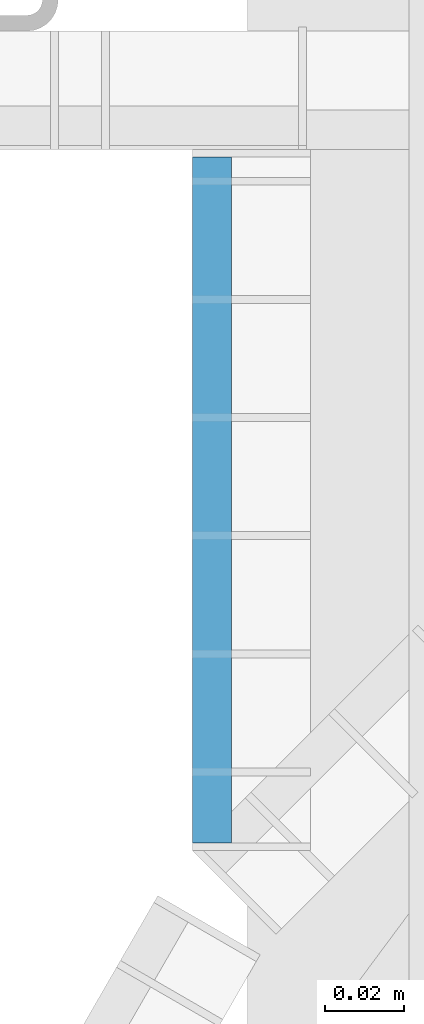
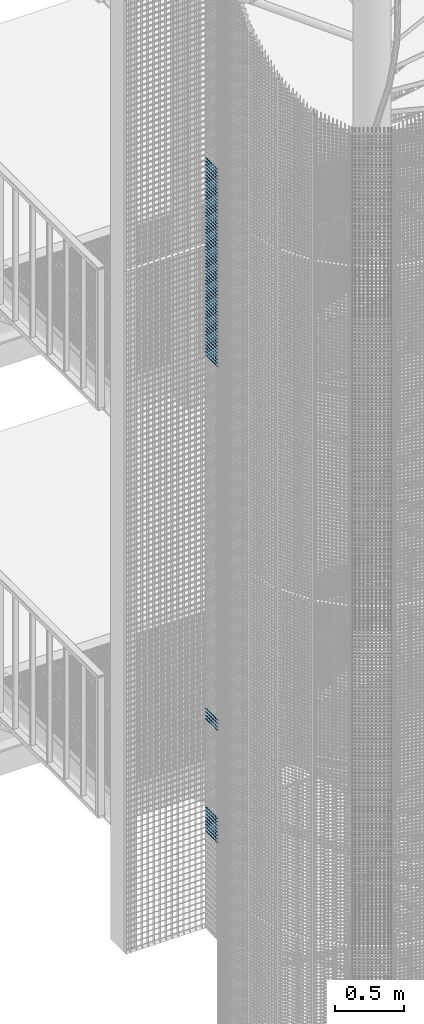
# One storey, part 182 of 1183: 71 beams, 2 elements without a shape of their own.
"""IFC2X3 building model written with IfcOpenShell, lengths in millimetres."""

from ifc_helpers import new_model, si_unit, frame, origin_with_axes, origin_2d_with_axis, place, context, subcontext, project, spatial, rectangle, extrude, material, type_object, element, aggregate, save


model = new_model("IFC2X3")

# Units and contexts
model_context = context("Model", 3, precision=1e-05, world=origin_with_axes())
body_context = subcontext(model_context, "Body", "Model", "MODEL_VIEW")
ifc_project = project(units=[si_unit("LENGTHUNIT", "METRE", prefix="MILLI"), si_unit("AREAUNIT", "SQUARE_METRE"), si_unit("VOLUMEUNIT", "CUBIC_METRE"), si_unit("MASSUNIT", "GRAM", prefix="KILO"), si_unit("TIMEUNIT", "SECOND"), si_unit("PLANEANGLEUNIT", "RADIAN"), si_unit("SOLIDANGLEUNIT", "STERADIAN"), si_unit("THERMODYNAMICTEMPERATUREUNIT", "DEGREE_CELSIUS"), si_unit("LUMINOUSINTENSITYUNIT", "LUMEN")], contexts=[model_context])

# Site, building, storey
site_placement = place(None, origin_with_axes())
site = spatial("IfcSite", under=ifc_project, at=site_placement, Name="Undefined", CompositionType="ELEMENT")
building_placement = place(site_placement, origin_with_axes())
building = spatial("IfcBuilding", under=site, at=building_placement, Name="Undefined", CompositionType="ELEMENT")
storey_placement = place(building_placement, origin_with_axes())
storey = spatial("IfcBuildingStorey", under=building, at=storey_placement, Name="Undefined", CompositionType="ELEMENT", Elevation=0.0)

# Assembly, beams
assembly_1_placement = place(storey_placement, origin_with_axes())
assembly_1 = element("IfcElementAssembly", 1, at=assembly_1_placement, inside=storey, Name="BORDURE", AssemblyPlace="NOTDEFINED", PredefinedType="NOTDEFINED")
ifc_material = material(Name="STEEL/S235JR")
beam_type = type_object("IfcBeamType", Name="PL2*10", PredefinedType="NOTDEFINED")
beam_1_placement = place(assembly_1_placement, frame((-884.882567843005, 867.997017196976, 6240.0), z_axis=(-1.0, 0.0, 0.0), x_axis=(0.0, -1.0, 0.0)))
beam_1 = element("IfcBeam", 2, at=beam_1_placement, type_object=beam_type, material=ifc_material, Name="ENTRETOISE", context=body_context, shape_type="SweptSolid", body=[
    extrude(rectangle(XDim=2.0, YDim=10.0, at=origin_2d_with_axis()), frame((174.109999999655, 0.0, 0.0), z_axis=(-1.0, 0.0, 0.0), x_axis=(0.0, -1.0, 0.0)), (0.0, 0.0, 1.0), 174.11),
])
beam_2_placement = place(assembly_1_placement, frame((-884.882567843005, 867.997017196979, 7020.0), z_axis=(-1.0, 0.0, 0.0), x_axis=(0.0, -1.0, 0.0)))
beam_2 = element("IfcBeam", 3, at=beam_2_placement, type_object=beam_type, material=ifc_material, Name="ENTRETOISE", context=body_context, shape_type="SweptSolid", body=[
    extrude(rectangle(XDim=2.0, YDim=10.0, at=origin_2d_with_axis()), frame((174.109999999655, 0.0, 0.0), z_axis=(-1.0, 0.0, 0.0), x_axis=(0.0, -1.0, 0.0)), (0.0, 0.0, 1.0), 174.11),
])
beam_3_placement = place(assembly_1_placement, frame((-884.882567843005, 867.997017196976, 6210.0), z_axis=(-1.0, 0.0, 0.0), x_axis=(0.0, -1.0, 0.0)))
beam_3 = element("IfcBeam", 4, at=beam_3_placement, type_object=beam_type, material=ifc_material, Name="ENTRETOISE", context=body_context, shape_type="SweptSolid", body=[
    extrude(rectangle(XDim=2.0, YDim=10.0, at=origin_2d_with_axis()), frame((174.109999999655, 0.0, 0.0), z_axis=(-1.0, 0.0, 0.0), x_axis=(0.0, -1.0, 0.0)), (0.0, 0.0, 1.0), 174.11),
])
beam_4_placement = place(assembly_1_placement, frame((-884.882567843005, 867.997017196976, 6180.0), z_axis=(-1.0, 0.0, 0.0), x_axis=(0.0, -1.0, 0.0)))
beam_4 = element("IfcBeam", 5, at=beam_4_placement, type_object=beam_type, material=ifc_material, Name="ENTRETOISE", context=body_context, shape_type="SweptSolid", body=[
    extrude(rectangle(XDim=2.0, YDim=10.0, at=origin_2d_with_axis()), frame((174.109999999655, 0.0, 0.0), z_axis=(-1.0, 0.0, 0.0), x_axis=(0.0, -1.0, 0.0)), (0.0, 0.0, 1.0), 174.11),
])
beam_5_placement = place(assembly_1_placement, frame((-884.882567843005, 867.997017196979, 7050.0), z_axis=(-1.0, 0.0, 0.0), x_axis=(0.0, -1.0, 0.0)))
beam_5 = element("IfcBeam", 6, at=beam_5_placement, type_object=beam_type, material=ifc_material, Name="ENTRETOISE", context=body_context, shape_type="SweptSolid", body=[
    extrude(rectangle(XDim=2.0, YDim=10.0, at=origin_2d_with_axis()), frame((174.109999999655, 0.0, 0.0), z_axis=(-1.0, 0.0, 0.0), x_axis=(0.0, -1.0, 0.0)), (0.0, 0.0, 1.0), 174.11),
])
beam_6_placement = place(assembly_1_placement, frame((-884.882567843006, 867.997017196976, 6150.0), z_axis=(-1.0, 0.0, 0.0), x_axis=(0.0, -1.0, 0.0)))
beam_6 = element("IfcBeam", 7, at=beam_6_placement, type_object=beam_type, material=ifc_material, Name="ENTRETOISE", context=body_context, shape_type="SweptSolid", body=[
    extrude(rectangle(XDim=2.0, YDim=10.0, at=origin_2d_with_axis()), frame((174.109999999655, 0.0, 0.0), z_axis=(-1.0, 0.0, 0.0), x_axis=(0.0, -1.0, 0.0)), (0.0, 0.0, 1.0), 174.11),
])
beam_7_placement = place(assembly_1_placement, frame((-884.882567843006, 867.997017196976, 6120.0), z_axis=(-1.0, 0.0, 0.0), x_axis=(0.0, -1.0, 0.0)))
beam_7 = element("IfcBeam", 8, at=beam_7_placement, type_object=beam_type, material=ifc_material, Name="ENTRETOISE", context=body_context, shape_type="SweptSolid", body=[
    extrude(rectangle(XDim=2.0, YDim=10.0, at=origin_2d_with_axis()), frame((174.109999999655, 0.0, 0.0), z_axis=(-1.0, 0.0, 0.0), x_axis=(0.0, -1.0, 0.0)), (0.0, 0.0, 1.0), 174.11),
])
beam_8_placement = place(assembly_1_placement, frame((-884.882567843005, 867.997017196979, 7080.0), z_axis=(-1.0, 0.0, 0.0), x_axis=(0.0, -1.0, 0.0)))
beam_8 = element("IfcBeam", 9, at=beam_8_placement, type_object=beam_type, material=ifc_material, Name="ENTRETOISE", context=body_context, shape_type="SweptSolid", body=[
    extrude(rectangle(XDim=2.0, YDim=10.0, at=origin_2d_with_axis()), frame((174.109999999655, 0.0, 0.0), z_axis=(-1.0, 0.0, 0.0), x_axis=(0.0, -1.0, 0.0)), (0.0, 0.0, 1.0), 174.11),
])
beam_9_placement = place(assembly_1_placement, frame((-884.882567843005, 867.997017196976, 6090.0), z_axis=(-1.0, 0.0, 0.0), x_axis=(0.0, -1.0, 0.0)))
beam_9 = element("IfcBeam", 10, at=beam_9_placement, type_object=beam_type, material=ifc_material, Name="ENTRETOISE", context=body_context, shape_type="SweptSolid", body=[
    extrude(rectangle(XDim=2.0, YDim=10.0, at=origin_2d_with_axis()), frame((174.109999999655, 0.0, 0.0), z_axis=(-1.0, 0.0, 0.0), x_axis=(0.0, -1.0, 0.0)), (0.0, 0.0, 1.0), 174.11),
])
beam_10_placement = place(assembly_1_placement, frame((-884.882567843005, 867.997017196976, 6060.0), z_axis=(-1.0, 0.0, 0.0), x_axis=(0.0, -1.0, 0.0)))
beam_10 = element("IfcBeam", 11, at=beam_10_placement, type_object=beam_type, material=ifc_material, Name="ENTRETOISE", context=body_context, shape_type="SweptSolid", body=[
    extrude(rectangle(XDim=2.0, YDim=10.0, at=origin_2d_with_axis()), frame((174.109999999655, 0.0, 0.0), z_axis=(-1.0, 0.0, 0.0), x_axis=(0.0, -1.0, 0.0)), (0.0, 0.0, 1.0), 174.11),
])
beam_11_placement = place(assembly_1_placement, frame((-884.882567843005, 867.99701719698, 7110.0), z_axis=(-1.0, 0.0, 0.0), x_axis=(0.0, -1.0, 0.0)))
beam_11 = element("IfcBeam", 12, at=beam_11_placement, type_object=beam_type, material=ifc_material, Name="ENTRETOISE", context=body_context, shape_type="SweptSolid", body=[
    extrude(rectangle(XDim=2.0, YDim=10.0, at=origin_2d_with_axis()), frame((174.109999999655, 0.0, 0.0), z_axis=(-1.0, 0.0, 0.0), x_axis=(0.0, -1.0, 0.0)), (0.0, 0.0, 1.0), 174.11),
])
beam_12_placement = place(assembly_1_placement, frame((-884.882567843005, 867.997017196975, 6030.0), z_axis=(-1.0, 0.0, 0.0), x_axis=(0.0, -1.0, 0.0)))
beam_12 = element("IfcBeam", 13, at=beam_12_placement, type_object=beam_type, material=ifc_material, Name="ENTRETOISE", context=body_context, shape_type="SweptSolid", body=[
    extrude(rectangle(XDim=2.0, YDim=10.0, at=origin_2d_with_axis()), frame((174.109999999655, 0.0, 0.0), z_axis=(-1.0, 0.0, 0.0), x_axis=(0.0, -1.0, 0.0)), (0.0, 0.0, 1.0), 174.11),
])
aggregate(assembly_1, [beam_1, beam_2, beam_3, beam_4, beam_5, beam_6, beam_7, beam_8, beam_9, beam_10, beam_11, beam_12])

assembly_2_placement = place(storey_placement, origin_with_axes())
assembly_2 = element("IfcElementAssembly", 14, at=assembly_2_placement, inside=storey, Name="BORDURE", AssemblyPlace="NOTDEFINED", PredefinedType="NOTDEFINED")
beam_13_placement = place(assembly_2_placement, frame((-884.882567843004, 867.997017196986, 11970.0), z_axis=(-1.0, 0.0, 0.0), x_axis=(0.0, -1.0, 0.0)))
beam_13 = element("IfcBeam", 15, at=beam_13_placement, type_object=beam_type, material=ifc_material, Name="ENTRETOISE", context=body_context, shape_type="SweptSolid", body=[
    extrude(rectangle(XDim=2.0, YDim=10.0, at=origin_2d_with_axis()), frame((174.109999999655, 0.0, 0.0), z_axis=(-1.0, 0.0, 0.0), x_axis=(0.0, -1.0, 0.0)), (0.0, 0.0, 1.0), 174.11),
])
beam_14_placement = place(assembly_2_placement, frame((-884.882567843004, 867.997017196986, 11940.0), z_axis=(-1.0, 0.0, 0.0), x_axis=(0.0, -1.0, 0.0)))
beam_14 = element("IfcBeam", 16, at=beam_14_placement, type_object=beam_type, material=ifc_material, Name="ENTRETOISE", context=body_context, shape_type="SweptSolid", body=[
    extrude(rectangle(XDim=2.0, YDim=10.0, at=origin_2d_with_axis()), frame((174.109999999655, 0.0, 0.0), z_axis=(-1.0, 0.0, 0.0), x_axis=(0.0, -1.0, 0.0)), (0.0, 0.0, 1.0), 174.11),
])
beam_15_placement = place(assembly_2_placement, frame((-884.882567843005, 867.997017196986, 11910.0), z_axis=(-1.0, 0.0, 0.0), x_axis=(0.0, -1.0, 0.0)))
beam_15 = element("IfcBeam", 17, at=beam_15_placement, type_object=beam_type, material=ifc_material, Name="ENTRETOISE", context=body_context, shape_type="SweptSolid", body=[
    extrude(rectangle(XDim=2.0, YDim=10.0, at=origin_2d_with_axis()), frame((174.109999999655, 0.0, 0.0), z_axis=(-1.0, 0.0, 0.0), x_axis=(0.0, -1.0, 0.0)), (0.0, 0.0, 1.0), 174.11),
])
beam_16_placement = place(assembly_2_placement, frame((-884.882567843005, 867.997017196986, 11880.0), z_axis=(-1.0, 0.0, 0.0), x_axis=(0.0, -1.0, 0.0)))
beam_16 = element("IfcBeam", 18, at=beam_16_placement, type_object=beam_type, material=ifc_material, Name="ENTRETOISE", context=body_context, shape_type="SweptSolid", body=[
    extrude(rectangle(XDim=2.0, YDim=10.0, at=origin_2d_with_axis()), frame((174.109999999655, 0.0, 0.0), z_axis=(-1.0, 0.0, 0.0), x_axis=(0.0, -1.0, 0.0)), (0.0, 0.0, 1.0), 174.11),
])
beam_17_placement = place(assembly_2_placement, frame((-884.882567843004, 867.997017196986, 11850.0), z_axis=(-1.0, 0.0, 0.0), x_axis=(0.0, -1.0, 0.0)))
beam_17 = element("IfcBeam", 19, at=beam_17_placement, type_object=beam_type, material=ifc_material, Name="ENTRETOISE", context=body_context, shape_type="SweptSolid", body=[
    extrude(rectangle(XDim=2.0, YDim=10.0, at=origin_2d_with_axis()), frame((174.109999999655, 0.0, 0.0), z_axis=(-1.0, 0.0, 0.0), x_axis=(0.0, -1.0, 0.0)), (0.0, 0.0, 1.0), 174.11),
])
beam_18_placement = place(assembly_2_placement, frame((-884.882567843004, 867.997017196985, 11820.0), z_axis=(-1.0, 0.0, 0.0), x_axis=(0.0, -1.0, 0.0)))
beam_18 = element("IfcBeam", 20, at=beam_18_placement, type_object=beam_type, material=ifc_material, Name="ENTRETOISE", context=body_context, shape_type="SweptSolid", body=[
    extrude(rectangle(XDim=2.0, YDim=10.0, at=origin_2d_with_axis()), frame((174.109999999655, 0.0, 0.0), z_axis=(-1.0, 0.0, 0.0), x_axis=(0.0, -1.0, 0.0)), (0.0, 0.0, 1.0), 174.11),
])
beam_19_placement = place(assembly_2_placement, frame((-884.882567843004, 867.997017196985, 11790.0), z_axis=(-1.0, 0.0, 0.0), x_axis=(0.0, -1.0, 0.0)))
beam_19 = element("IfcBeam", 21, at=beam_19_placement, type_object=beam_type, material=ifc_material, Name="ENTRETOISE", context=body_context, shape_type="SweptSolid", body=[
    extrude(rectangle(XDim=2.0, YDim=10.0, at=origin_2d_with_axis()), frame((174.109999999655, 0.0, 0.0), z_axis=(-1.0, 0.0, 0.0), x_axis=(0.0, -1.0, 0.0)), (0.0, 0.0, 1.0), 174.11),
])
beam_20_placement = place(assembly_2_placement, frame((-884.882567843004, 867.997017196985, 11760.0), z_axis=(-1.0, 0.0, 0.0), x_axis=(0.0, -1.0, 0.0)))
beam_20 = element("IfcBeam", 22, at=beam_20_placement, type_object=beam_type, material=ifc_material, Name="ENTRETOISE", context=body_context, shape_type="SweptSolid", body=[
    extrude(rectangle(XDim=2.0, YDim=10.0, at=origin_2d_with_axis()), frame((174.109999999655, 0.0, 0.0), z_axis=(-1.0, 0.0, 0.0), x_axis=(0.0, -1.0, 0.0)), (0.0, 0.0, 1.0), 174.11),
])
beam_21_placement = place(assembly_2_placement, frame((-884.882567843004, 867.997017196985, 11730.0), z_axis=(-1.0, 0.0, 0.0), x_axis=(0.0, -1.0, 0.0)))
beam_21 = element("IfcBeam", 23, at=beam_21_placement, type_object=beam_type, material=ifc_material, Name="ENTRETOISE", context=body_context, shape_type="SweptSolid", body=[
    extrude(rectangle(XDim=2.0, YDim=10.0, at=origin_2d_with_axis()), frame((174.109999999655, 0.0, 0.0), z_axis=(-1.0, 0.0, 0.0), x_axis=(0.0, -1.0, 0.0)), (0.0, 0.0, 1.0), 174.11),
])
beam_22_placement = place(assembly_2_placement, frame((-884.882567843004, 867.997017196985, 11700.0), z_axis=(-1.0, 0.0, 0.0), x_axis=(0.0, -1.0, 0.0)))
beam_22 = element("IfcBeam", 24, at=beam_22_placement, type_object=beam_type, material=ifc_material, Name="ENTRETOISE", context=body_context, shape_type="SweptSolid", body=[
    extrude(rectangle(XDim=2.0, YDim=10.0, at=origin_2d_with_axis()), frame((174.109999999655, 0.0, 0.0), z_axis=(-1.0, 0.0, 0.0), x_axis=(0.0, -1.0, 0.0)), (0.0, 0.0, 1.0), 174.11),
])
beam_23_placement = place(assembly_2_placement, frame((-884.882567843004, 867.997017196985, 11670.0), z_axis=(-1.0, 0.0, 0.0), x_axis=(0.0, -1.0, 0.0)))
beam_23 = element("IfcBeam", 25, at=beam_23_placement, type_object=beam_type, material=ifc_material, Name="ENTRETOISE", context=body_context, shape_type="SweptSolid", body=[
    extrude(rectangle(XDim=2.0, YDim=10.0, at=origin_2d_with_axis()), frame((174.109999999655, 0.0, 0.0), z_axis=(-1.0, 0.0, 0.0), x_axis=(0.0, -1.0, 0.0)), (0.0, 0.0, 1.0), 174.11),
])
beam_24_placement = place(assembly_2_placement, frame((-884.882567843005, 867.997017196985, 11640.0), z_axis=(-1.0, 0.0, 0.0), x_axis=(0.0, -1.0, 0.0)))
beam_24 = element("IfcBeam", 26, at=beam_24_placement, type_object=beam_type, material=ifc_material, Name="ENTRETOISE", context=body_context, shape_type="SweptSolid", body=[
    extrude(rectangle(XDim=2.0, YDim=10.0, at=origin_2d_with_axis()), frame((174.109999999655, 0.0, 0.0), z_axis=(-1.0, 0.0, 0.0), x_axis=(0.0, -1.0, 0.0)), (0.0, 0.0, 1.0), 174.11),
])
beam_25_placement = place(assembly_2_placement, frame((-884.882567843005, 867.997017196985, 11610.0), z_axis=(-1.0, 0.0, 0.0), x_axis=(0.0, -1.0, 0.0)))
beam_25 = element("IfcBeam", 27, at=beam_25_placement, type_object=beam_type, material=ifc_material, Name="ENTRETOISE", context=body_context, shape_type="SweptSolid", body=[
    extrude(rectangle(XDim=2.0, YDim=10.0, at=origin_2d_with_axis()), frame((174.109999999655, 0.0, 0.0), z_axis=(-1.0, 0.0, 0.0), x_axis=(0.0, -1.0, 0.0)), (0.0, 0.0, 1.0), 174.11),
])
beam_26_placement = place(assembly_2_placement, frame((-884.882567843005, 867.997017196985, 11580.0), z_axis=(-1.0, 0.0, 0.0), x_axis=(0.0, -1.0, 0.0)))
beam_26 = element("IfcBeam", 28, at=beam_26_placement, type_object=beam_type, material=ifc_material, Name="ENTRETOISE", context=body_context, shape_type="SweptSolid", body=[
    extrude(rectangle(XDim=2.0, YDim=10.0, at=origin_2d_with_axis()), frame((174.109999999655, 0.0, 0.0), z_axis=(-1.0, 0.0, 0.0), x_axis=(0.0, -1.0, 0.0)), (0.0, 0.0, 1.0), 174.11),
])
beam_27_placement = place(assembly_2_placement, frame((-884.882567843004, 867.997017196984, 11550.0), z_axis=(-1.0, 0.0, 0.0), x_axis=(0.0, -1.0, 0.0)))
beam_27 = element("IfcBeam", 29, at=beam_27_placement, type_object=beam_type, material=ifc_material, Name="ENTRETOISE", context=body_context, shape_type="SweptSolid", body=[
    extrude(rectangle(XDim=2.0, YDim=10.0, at=origin_2d_with_axis()), frame((174.109999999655, 0.0, 0.0), z_axis=(-1.0, 0.0, 0.0), x_axis=(0.0, -1.0, 0.0)), (0.0, 0.0, 1.0), 174.11),
])
beam_28_placement = place(assembly_2_placement, frame((-884.882567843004, 867.997017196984, 11520.0), z_axis=(-1.0, 0.0, 0.0), x_axis=(0.0, -1.0, 0.0)))
beam_28 = element("IfcBeam", 30, at=beam_28_placement, type_object=beam_type, material=ifc_material, Name="ENTRETOISE", context=body_context, shape_type="SweptSolid", body=[
    extrude(rectangle(XDim=2.0, YDim=10.0, at=origin_2d_with_axis()), frame((174.109999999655, 0.0, 0.0), z_axis=(-1.0, 0.0, 0.0), x_axis=(0.0, -1.0, 0.0)), (0.0, 0.0, 1.0), 174.11),
])
beam_29_placement = place(assembly_2_placement, frame((-884.882567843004, 867.997017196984, 11490.0), z_axis=(-1.0, 0.0, 0.0), x_axis=(0.0, -1.0, 0.0)))
beam_29 = element("IfcBeam", 31, at=beam_29_placement, type_object=beam_type, material=ifc_material, Name="ENTRETOISE", context=body_context, shape_type="SweptSolid", body=[
    extrude(rectangle(XDim=2.0, YDim=10.0, at=origin_2d_with_axis()), frame((174.109999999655, 0.0, 0.0), z_axis=(-1.0, 0.0, 0.0), x_axis=(0.0, -1.0, 0.0)), (0.0, 0.0, 1.0), 174.11),
])
beam_30_placement = place(assembly_2_placement, frame((-884.882567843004, 867.997017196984, 11460.0), z_axis=(-1.0, 0.0, 0.0), x_axis=(0.0, -1.0, 0.0)))
beam_30 = element("IfcBeam", 32, at=beam_30_placement, type_object=beam_type, material=ifc_material, Name="ENTRETOISE", context=body_context, shape_type="SweptSolid", body=[
    extrude(rectangle(XDim=2.0, YDim=10.0, at=origin_2d_with_axis()), frame((174.109999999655, 0.0, 0.0), z_axis=(-1.0, 0.0, 0.0), x_axis=(0.0, -1.0, 0.0)), (0.0, 0.0, 1.0), 174.11),
])
beam_31_placement = place(assembly_2_placement, frame((-884.882567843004, 867.997017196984, 11430.0), z_axis=(-1.0, 0.0, 0.0), x_axis=(0.0, -1.0, 0.0)))
beam_31 = element("IfcBeam", 33, at=beam_31_placement, type_object=beam_type, material=ifc_material, Name="ENTRETOISE", context=body_context, shape_type="SweptSolid", body=[
    extrude(rectangle(XDim=2.0, YDim=10.0, at=origin_2d_with_axis()), frame((174.109999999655, 0.0, 0.0), z_axis=(-1.0, 0.0, 0.0), x_axis=(0.0, -1.0, 0.0)), (0.0, 0.0, 1.0), 174.11),
])
beam_32_placement = place(assembly_2_placement, frame((-884.882567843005, 867.997017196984, 11400.0), z_axis=(-1.0, 0.0, 0.0), x_axis=(0.0, -1.0, 0.0)))
beam_32 = element("IfcBeam", 34, at=beam_32_placement, type_object=beam_type, material=ifc_material, Name="ENTRETOISE", context=body_context, shape_type="SweptSolid", body=[
    extrude(rectangle(XDim=2.0, YDim=10.0, at=origin_2d_with_axis()), frame((174.109999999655, 0.0, 0.0), z_axis=(-1.0, 0.0, 0.0), x_axis=(0.0, -1.0, 0.0)), (0.0, 0.0, 1.0), 174.11),
])
beam_33_placement = place(assembly_2_placement, frame((-884.882567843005, 867.997017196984, 11370.0), z_axis=(-1.0, 0.0, 0.0), x_axis=(0.0, -1.0, 0.0)))
beam_33 = element("IfcBeam", 35, at=beam_33_placement, type_object=beam_type, material=ifc_material, Name="ENTRETOISE", context=body_context, shape_type="SweptSolid", body=[
    extrude(rectangle(XDim=2.0, YDim=10.0, at=origin_2d_with_axis()), frame((174.109999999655, 0.0, 0.0), z_axis=(-1.0, 0.0, 0.0), x_axis=(0.0, -1.0, 0.0)), (0.0, 0.0, 1.0), 174.11),
])
beam_34_placement = place(assembly_2_placement, frame((-884.882567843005, 867.997017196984, 11340.0), z_axis=(-1.0, 0.0, 0.0), x_axis=(0.0, -1.0, 0.0)))
beam_34 = element("IfcBeam", 36, at=beam_34_placement, type_object=beam_type, material=ifc_material, Name="ENTRETOISE", context=body_context, shape_type="SweptSolid", body=[
    extrude(rectangle(XDim=2.0, YDim=10.0, at=origin_2d_with_axis()), frame((174.109999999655, 0.0, 0.0), z_axis=(-1.0, 0.0, 0.0), x_axis=(0.0, -1.0, 0.0)), (0.0, 0.0, 1.0), 174.11),
])
beam_35_placement = place(assembly_2_placement, frame((-884.882567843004, 867.997017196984, 11310.0), z_axis=(-1.0, 0.0, 0.0), x_axis=(0.0, -1.0, 0.0)))
beam_35 = element("IfcBeam", 37, at=beam_35_placement, type_object=beam_type, material=ifc_material, Name="ENTRETOISE", context=body_context, shape_type="SweptSolid", body=[
    extrude(rectangle(XDim=2.0, YDim=10.0, at=origin_2d_with_axis()), frame((174.109999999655, 0.0, 0.0), z_axis=(-1.0, 0.0, 0.0), x_axis=(0.0, -1.0, 0.0)), (0.0, 0.0, 1.0), 174.11),
])
beam_36_placement = place(assembly_2_placement, frame((-884.882567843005, 867.997017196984, 11280.0), z_axis=(-1.0, 0.0, 0.0), x_axis=(0.0, -1.0, 0.0)))
beam_36 = element("IfcBeam", 38, at=beam_36_placement, type_object=beam_type, material=ifc_material, Name="ENTRETOISE", context=body_context, shape_type="SweptSolid", body=[
    extrude(rectangle(XDim=2.0, YDim=10.0, at=origin_2d_with_axis()), frame((174.109999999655, 0.0, 0.0), z_axis=(-1.0, 0.0, 0.0), x_axis=(0.0, -1.0, 0.0)), (0.0, 0.0, 1.0), 174.11),
])
beam_37_placement = place(assembly_2_placement, frame((-884.882567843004, 867.997017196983, 11250.0), z_axis=(-1.0, 0.0, 0.0), x_axis=(0.0, -1.0, 0.0)))
beam_37 = element("IfcBeam", 39, at=beam_37_placement, type_object=beam_type, material=ifc_material, Name="ENTRETOISE", context=body_context, shape_type="SweptSolid", body=[
    extrude(rectangle(XDim=2.0, YDim=10.0, at=origin_2d_with_axis()), frame((174.109999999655, 0.0, 0.0), z_axis=(-1.0, 0.0, 0.0), x_axis=(0.0, -1.0, 0.0)), (0.0, 0.0, 1.0), 174.11),
])
beam_38_placement = place(assembly_2_placement, frame((-884.882567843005, 867.997017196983, 11220.0), z_axis=(-1.0, 0.0, 0.0), x_axis=(0.0, -1.0, 0.0)))
beam_38 = element("IfcBeam", 40, at=beam_38_placement, type_object=beam_type, material=ifc_material, Name="ENTRETOISE", context=body_context, shape_type="SweptSolid", body=[
    extrude(rectangle(XDim=2.0, YDim=10.0, at=origin_2d_with_axis()), frame((174.109999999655, 0.0, 0.0), z_axis=(-1.0, 0.0, 0.0), x_axis=(0.0, -1.0, 0.0)), (0.0, 0.0, 1.0), 174.11),
])
beam_39_placement = place(assembly_2_placement, frame((-884.882567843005, 867.997017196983, 11190.0), z_axis=(-1.0, 0.0, 0.0), x_axis=(0.0, -1.0, 0.0)))
beam_39 = element("IfcBeam", 41, at=beam_39_placement, type_object=beam_type, material=ifc_material, Name="ENTRETOISE", context=body_context, shape_type="SweptSolid", body=[
    extrude(rectangle(XDim=2.0, YDim=10.0, at=origin_2d_with_axis()), frame((174.109999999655, 0.0, 0.0), z_axis=(-1.0, 0.0, 0.0), x_axis=(0.0, -1.0, 0.0)), (0.0, 0.0, 1.0), 174.11),
])
beam_40_placement = place(assembly_2_placement, frame((-884.882567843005, 867.997017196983, 11160.0), z_axis=(-1.0, 0.0, 0.0), x_axis=(0.0, -1.0, 0.0)))
beam_40 = element("IfcBeam", 42, at=beam_40_placement, type_object=beam_type, material=ifc_material, Name="ENTRETOISE", context=body_context, shape_type="SweptSolid", body=[
    extrude(rectangle(XDim=2.0, YDim=10.0, at=origin_2d_with_axis()), frame((174.109999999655, 0.0, 0.0), z_axis=(-1.0, 0.0, 0.0), x_axis=(0.0, -1.0, 0.0)), (0.0, 0.0, 1.0), 174.11),
])
beam_41_placement = place(assembly_2_placement, frame((-884.882567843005, 867.997017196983, 11130.0), z_axis=(-1.0, 0.0, 0.0), x_axis=(0.0, -1.0, 0.0)))
beam_41 = element("IfcBeam", 43, at=beam_41_placement, type_object=beam_type, material=ifc_material, Name="ENTRETOISE", context=body_context, shape_type="SweptSolid", body=[
    extrude(rectangle(XDim=2.0, YDim=10.0, at=origin_2d_with_axis()), frame((174.109999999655, 0.0, 0.0), z_axis=(-1.0, 0.0, 0.0), x_axis=(0.0, -1.0, 0.0)), (0.0, 0.0, 1.0), 174.11),
])
beam_42_placement = place(assembly_2_placement, frame((-884.882567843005, 867.997017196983, 11100.0), z_axis=(-1.0, 0.0, 0.0), x_axis=(0.0, -1.0, 0.0)))
beam_42 = element("IfcBeam", 44, at=beam_42_placement, type_object=beam_type, material=ifc_material, Name="ENTRETOISE", context=body_context, shape_type="SweptSolid", body=[
    extrude(rectangle(XDim=2.0, YDim=10.0, at=origin_2d_with_axis()), frame((174.109999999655, 0.0, 0.0), z_axis=(-1.0, 0.0, 0.0), x_axis=(0.0, -1.0, 0.0)), (0.0, 0.0, 1.0), 174.11),
])
beam_43_placement = place(assembly_2_placement, frame((-884.882567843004, 867.997017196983, 11070.0), z_axis=(-1.0, 0.0, 0.0), x_axis=(0.0, -1.0, 0.0)))
beam_43 = element("IfcBeam", 45, at=beam_43_placement, type_object=beam_type, material=ifc_material, Name="ENTRETOISE", context=body_context, shape_type="SweptSolid", body=[
    extrude(rectangle(XDim=2.0, YDim=10.0, at=origin_2d_with_axis()), frame((174.109999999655, 0.0, 0.0), z_axis=(-1.0, 0.0, 0.0), x_axis=(0.0, -1.0, 0.0)), (0.0, 0.0, 1.0), 174.11),
])
beam_44_placement = place(assembly_2_placement, frame((-884.882567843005, 867.997017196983, 11040.0), z_axis=(-1.0, 0.0, 0.0), x_axis=(0.0, -1.0, 0.0)))
beam_44 = element("IfcBeam", 46, at=beam_44_placement, type_object=beam_type, material=ifc_material, Name="ENTRETOISE", context=body_context, shape_type="SweptSolid", body=[
    extrude(rectangle(XDim=2.0, YDim=10.0, at=origin_2d_with_axis()), frame((174.109999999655, 0.0, 0.0), z_axis=(-1.0, 0.0, 0.0), x_axis=(0.0, -1.0, 0.0)), (0.0, 0.0, 1.0), 174.11),
])
beam_45_placement = place(assembly_2_placement, frame((-884.882567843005, 867.997017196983, 11010.0), z_axis=(-1.0, 0.0, 0.0), x_axis=(0.0, -1.0, 0.0)))
beam_45 = element("IfcBeam", 47, at=beam_45_placement, type_object=beam_type, material=ifc_material, Name="ENTRETOISE", context=body_context, shape_type="SweptSolid", body=[
    extrude(rectangle(XDim=2.0, YDim=10.0, at=origin_2d_with_axis()), frame((174.109999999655, 0.0, 0.0), z_axis=(-1.0, 0.0, 0.0), x_axis=(0.0, -1.0, 0.0)), (0.0, 0.0, 1.0), 174.11),
])
beam_46_placement = place(assembly_2_placement, frame((-884.882567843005, 867.997017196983, 10980.0), z_axis=(-1.0, 0.0, 0.0), x_axis=(0.0, -1.0, 0.0)))
beam_46 = element("IfcBeam", 48, at=beam_46_placement, type_object=beam_type, material=ifc_material, Name="ENTRETOISE", context=body_context, shape_type="SweptSolid", body=[
    extrude(rectangle(XDim=2.0, YDim=10.0, at=origin_2d_with_axis()), frame((174.109999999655, 0.0, 0.0), z_axis=(-1.0, 0.0, 0.0), x_axis=(0.0, -1.0, 0.0)), (0.0, 0.0, 1.0), 174.11),
])
beam_47_placement = place(assembly_2_placement, frame((-884.882567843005, 867.997017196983, 10950.0), z_axis=(-1.0, 0.0, 0.0), x_axis=(0.0, -1.0, 0.0)))
beam_47 = element("IfcBeam", 49, at=beam_47_placement, type_object=beam_type, material=ifc_material, Name="ENTRETOISE", context=body_context, shape_type="SweptSolid", body=[
    extrude(rectangle(XDim=2.0, YDim=10.0, at=origin_2d_with_axis()), frame((174.109999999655, 0.0, 0.0), z_axis=(-1.0, 0.0, 0.0), x_axis=(0.0, -1.0, 0.0)), (0.0, 0.0, 1.0), 174.11),
])
beam_48_placement = place(assembly_2_placement, frame((-884.882567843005, 867.997017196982, 10920.0), z_axis=(-1.0, 0.0, 0.0), x_axis=(0.0, -1.0, 0.0)))
beam_48 = element("IfcBeam", 50, at=beam_48_placement, type_object=beam_type, material=ifc_material, Name="ENTRETOISE", context=body_context, shape_type="SweptSolid", body=[
    extrude(rectangle(XDim=2.0, YDim=10.0, at=origin_2d_with_axis()), frame((174.109999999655, 0.0, 0.0), z_axis=(-1.0, 0.0, 0.0), x_axis=(0.0, -1.0, 0.0)), (0.0, 0.0, 1.0), 174.11),
])
beam_49_placement = place(assembly_2_placement, frame((-884.882567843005, 867.997017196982, 10890.0), z_axis=(-1.0, 0.0, 0.0), x_axis=(0.0, -1.0, 0.0)))
beam_49 = element("IfcBeam", 51, at=beam_49_placement, type_object=beam_type, material=ifc_material, Name="ENTRETOISE", context=body_context, shape_type="SweptSolid", body=[
    extrude(rectangle(XDim=2.0, YDim=10.0, at=origin_2d_with_axis()), frame((174.109999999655, 0.0, 0.0), z_axis=(-1.0, 0.0, 0.0), x_axis=(0.0, -1.0, 0.0)), (0.0, 0.0, 1.0), 174.11),
])
beam_50_placement = place(assembly_2_placement, frame((-884.882567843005, 867.997017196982, 10860.0), z_axis=(-1.0, 0.0, 0.0), x_axis=(0.0, -1.0, 0.0)))
beam_50 = element("IfcBeam", 52, at=beam_50_placement, type_object=beam_type, material=ifc_material, Name="ENTRETOISE", context=body_context, shape_type="SweptSolid", body=[
    extrude(rectangle(XDim=2.0, YDim=10.0, at=origin_2d_with_axis()), frame((174.109999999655, 0.0, 0.0), z_axis=(-1.0, 0.0, 0.0), x_axis=(0.0, -1.0, 0.0)), (0.0, 0.0, 1.0), 174.11),
])
beam_51_placement = place(assembly_2_placement, frame((-884.882567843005, 867.997017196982, 10830.0), z_axis=(-1.0, 0.0, 0.0), x_axis=(0.0, -1.0, 0.0)))
beam_51 = element("IfcBeam", 53, at=beam_51_placement, type_object=beam_type, material=ifc_material, Name="ENTRETOISE", context=body_context, shape_type="SweptSolid", body=[
    extrude(rectangle(XDim=2.0, YDim=10.0, at=origin_2d_with_axis()), frame((174.109999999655, 0.0, 0.0), z_axis=(-1.0, 0.0, 0.0), x_axis=(0.0, -1.0, 0.0)), (0.0, 0.0, 1.0), 174.11),
])
beam_52_placement = place(assembly_2_placement, frame((-884.882567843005, 867.997017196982, 10800.0), z_axis=(-1.0, 0.0, 0.0), x_axis=(0.0, -1.0, 0.0)))
beam_52 = element("IfcBeam", 54, at=beam_52_placement, type_object=beam_type, material=ifc_material, Name="ENTRETOISE", context=body_context, shape_type="SweptSolid", body=[
    extrude(rectangle(XDim=2.0, YDim=10.0, at=origin_2d_with_axis()), frame((174.109999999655, 0.0, 0.0), z_axis=(-1.0, 0.0, 0.0), x_axis=(0.0, -1.0, 0.0)), (0.0, 0.0, 1.0), 174.11),
])
beam_53_placement = place(assembly_2_placement, frame((-884.882567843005, 867.997017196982, 10770.0), z_axis=(-1.0, 0.0, 0.0), x_axis=(0.0, -1.0, 0.0)))
beam_53 = element("IfcBeam", 55, at=beam_53_placement, type_object=beam_type, material=ifc_material, Name="ENTRETOISE", context=body_context, shape_type="SweptSolid", body=[
    extrude(rectangle(XDim=2.0, YDim=10.0, at=origin_2d_with_axis()), frame((174.109999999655, 0.0, 0.0), z_axis=(-1.0, 0.0, 0.0), x_axis=(0.0, -1.0, 0.0)), (0.0, 0.0, 1.0), 174.11),
])
beam_54_placement = place(assembly_2_placement, frame((-884.882567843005, 867.997017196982, 10740.0), z_axis=(-1.0, 0.0, 0.0), x_axis=(0.0, -1.0, 0.0)))
beam_54 = element("IfcBeam", 56, at=beam_54_placement, type_object=beam_type, material=ifc_material, Name="ENTRETOISE", context=body_context, shape_type="SweptSolid", body=[
    extrude(rectangle(XDim=2.0, YDim=10.0, at=origin_2d_with_axis()), frame((174.109999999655, 0.0, 0.0), z_axis=(-1.0, 0.0, 0.0), x_axis=(0.0, -1.0, 0.0)), (0.0, 0.0, 1.0), 174.11),
])
beam_55_placement = place(assembly_2_placement, frame((-884.882567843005, 867.997017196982, 10710.0), z_axis=(-1.0, 0.0, 0.0), x_axis=(0.0, -1.0, 0.0)))
beam_55 = element("IfcBeam", 57, at=beam_55_placement, type_object=beam_type, material=ifc_material, Name="ENTRETOISE", context=body_context, shape_type="SweptSolid", body=[
    extrude(rectangle(XDim=2.0, YDim=10.0, at=origin_2d_with_axis()), frame((174.109999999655, 0.0, 0.0), z_axis=(-1.0, 0.0, 0.0), x_axis=(0.0, -1.0, 0.0)), (0.0, 0.0, 1.0), 174.11),
])
beam_56_placement = place(assembly_2_placement, frame((-884.882567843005, 867.997017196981, 10680.0), z_axis=(-1.0, 0.0, 0.0), x_axis=(0.0, -1.0, 0.0)))
beam_56 = element("IfcBeam", 58, at=beam_56_placement, type_object=beam_type, material=ifc_material, Name="ENTRETOISE", context=body_context, shape_type="SweptSolid", body=[
    extrude(rectangle(XDim=2.0, YDim=10.0, at=origin_2d_with_axis()), frame((174.109999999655, 0.0, 0.0), z_axis=(-1.0, 0.0, 0.0), x_axis=(0.0, -1.0, 0.0)), (0.0, 0.0, 1.0), 174.11),
])
beam_57_placement = place(assembly_2_placement, frame((-884.882567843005, 867.997017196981, 10650.0), z_axis=(-1.0, 0.0, 0.0), x_axis=(0.0, -1.0, 0.0)))
beam_57 = element("IfcBeam", 59, at=beam_57_placement, type_object=beam_type, material=ifc_material, Name="ENTRETOISE", context=body_context, shape_type="SweptSolid", body=[
    extrude(rectangle(XDim=2.0, YDim=10.0, at=origin_2d_with_axis()), frame((174.109999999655, 0.0, 0.0), z_axis=(-1.0, 0.0, 0.0), x_axis=(0.0, -1.0, 0.0)), (0.0, 0.0, 1.0), 174.11),
])
beam_58_placement = place(assembly_2_placement, frame((-884.882567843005, 867.997017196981, 10620.0), z_axis=(-1.0, 0.0, 0.0), x_axis=(0.0, -1.0, 0.0)))
beam_58 = element("IfcBeam", 60, at=beam_58_placement, type_object=beam_type, material=ifc_material, Name="ENTRETOISE", context=body_context, shape_type="SweptSolid", body=[
    extrude(rectangle(XDim=2.0, YDim=10.0, at=origin_2d_with_axis()), frame((174.109999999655, 0.0, 0.0), z_axis=(-1.0, 0.0, 0.0), x_axis=(0.0, -1.0, 0.0)), (0.0, 0.0, 1.0), 174.11),
])
beam_59_placement = place(assembly_2_placement, frame((-884.882567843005, 867.997017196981, 10590.0), z_axis=(-1.0, 0.0, 0.0), x_axis=(0.0, -1.0, 0.0)))
beam_59 = element("IfcBeam", 61, at=beam_59_placement, type_object=beam_type, material=ifc_material, Name="ENTRETOISE", context=body_context, shape_type="SweptSolid", body=[
    extrude(rectangle(XDim=2.0, YDim=10.0, at=origin_2d_with_axis()), frame((174.109999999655, 0.0, 0.0), z_axis=(-1.0, 0.0, 0.0), x_axis=(0.0, -1.0, 0.0)), (0.0, 0.0, 1.0), 174.11),
])
beam_60_placement = place(assembly_2_placement, frame((-884.882567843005, 867.997017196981, 10560.0), z_axis=(-1.0, 0.0, 0.0), x_axis=(0.0, -1.0, 0.0)))
beam_60 = element("IfcBeam", 62, at=beam_60_placement, type_object=beam_type, material=ifc_material, Name="ENTRETOISE", context=body_context, shape_type="SweptSolid", body=[
    extrude(rectangle(XDim=2.0, YDim=10.0, at=origin_2d_with_axis()), frame((174.109999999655, 0.0, 0.0), z_axis=(-1.0, 0.0, 0.0), x_axis=(0.0, -1.0, 0.0)), (0.0, 0.0, 1.0), 174.11),
])
beam_61_placement = place(assembly_2_placement, frame((-884.882567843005, 867.997017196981, 10530.0), z_axis=(-1.0, 0.0, 0.0), x_axis=(0.0, -1.0, 0.0)))
beam_61 = element("IfcBeam", 63, at=beam_61_placement, type_object=beam_type, material=ifc_material, Name="ENTRETOISE", context=body_context, shape_type="SweptSolid", body=[
    extrude(rectangle(XDim=2.0, YDim=10.0, at=origin_2d_with_axis()), frame((174.109999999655, 0.0, 0.0), z_axis=(-1.0, 0.0, 0.0), x_axis=(0.0, -1.0, 0.0)), (0.0, 0.0, 1.0), 174.11),
])
beam_62_placement = place(assembly_2_placement, frame((-884.882567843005, 867.997017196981, 10500.0), z_axis=(-1.0, 0.0, 0.0), x_axis=(0.0, -1.0, 0.0)))
beam_62 = element("IfcBeam", 64, at=beam_62_placement, type_object=beam_type, material=ifc_material, Name="ENTRETOISE", context=body_context, shape_type="SweptSolid", body=[
    extrude(rectangle(XDim=2.0, YDim=10.0, at=origin_2d_with_axis()), frame((174.109999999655, 0.0, 0.0), z_axis=(-1.0, 0.0, 0.0), x_axis=(0.0, -1.0, 0.0)), (0.0, 0.0, 1.0), 174.11),
])
beam_63_placement = place(assembly_2_placement, frame((-884.882567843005, 867.997017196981, 10470.0), z_axis=(-1.0, 0.0, 0.0), x_axis=(0.0, -1.0, 0.0)))
beam_63 = element("IfcBeam", 65, at=beam_63_placement, type_object=beam_type, material=ifc_material, Name="ENTRETOISE", context=body_context, shape_type="SweptSolid", body=[
    extrude(rectangle(XDim=2.0, YDim=10.0, at=origin_2d_with_axis()), frame((174.109999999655, 0.0, 0.0), z_axis=(-1.0, 0.0, 0.0), x_axis=(0.0, -1.0, 0.0)), (0.0, 0.0, 1.0), 174.11),
])
beam_64_placement = place(assembly_2_placement, frame((-884.882567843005, 867.997017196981, 10440.0), z_axis=(-1.0, 0.0, 0.0), x_axis=(0.0, -1.0, 0.0)))
beam_64 = element("IfcBeam", 66, at=beam_64_placement, type_object=beam_type, material=ifc_material, Name="ENTRETOISE", context=body_context, shape_type="SweptSolid", body=[
    extrude(rectangle(XDim=2.0, YDim=10.0, at=origin_2d_with_axis()), frame((174.109999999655, 0.0, 0.0), z_axis=(-1.0, 0.0, 0.0), x_axis=(0.0, -1.0, 0.0)), (0.0, 0.0, 1.0), 174.11),
])
beam_65_placement = place(assembly_2_placement, frame((-884.882567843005, 867.997017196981, 10410.0), z_axis=(-1.0, 0.0, 0.0), x_axis=(0.0, -1.0, 0.0)))
beam_65 = element("IfcBeam", 67, at=beam_65_placement, type_object=beam_type, material=ifc_material, Name="ENTRETOISE", context=body_context, shape_type="SweptSolid", body=[
    extrude(rectangle(XDim=2.0, YDim=10.0, at=origin_2d_with_axis()), frame((174.109999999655, 0.0, 0.0), z_axis=(-1.0, 0.0, 0.0), x_axis=(0.0, -1.0, 0.0)), (0.0, 0.0, 1.0), 174.11),
])
beam_66_placement = place(assembly_2_placement, frame((-884.882567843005, 867.99701719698, 10380.0), z_axis=(-1.0, 0.0, 0.0), x_axis=(0.0, -1.0, 0.0)))
beam_66 = element("IfcBeam", 68, at=beam_66_placement, type_object=beam_type, material=ifc_material, Name="ENTRETOISE", context=body_context, shape_type="SweptSolid", body=[
    extrude(rectangle(XDim=2.0, YDim=10.0, at=origin_2d_with_axis()), frame((174.109999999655, 0.0, 0.0), z_axis=(-1.0, 0.0, 0.0), x_axis=(0.0, -1.0, 0.0)), (0.0, 0.0, 1.0), 174.11),
])
beam_67_placement = place(assembly_2_placement, frame((-884.882567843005, 867.99701719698, 10350.0), z_axis=(-1.0, 0.0, 0.0), x_axis=(0.0, -1.0, 0.0)))
beam_67 = element("IfcBeam", 69, at=beam_67_placement, type_object=beam_type, material=ifc_material, Name="ENTRETOISE", context=body_context, shape_type="SweptSolid", body=[
    extrude(rectangle(XDim=2.0, YDim=10.0, at=origin_2d_with_axis()), frame((174.109999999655, 0.0, 0.0), z_axis=(-1.0, 0.0, 0.0), x_axis=(0.0, -1.0, 0.0)), (0.0, 0.0, 1.0), 174.11),
])
beam_68_placement = place(assembly_2_placement, frame((-884.882567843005, 867.99701719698, 10320.0), z_axis=(-1.0, 0.0, 0.0), x_axis=(0.0, -1.0, 0.0)))
beam_68 = element("IfcBeam", 70, at=beam_68_placement, type_object=beam_type, material=ifc_material, Name="ENTRETOISE", context=body_context, shape_type="SweptSolid", body=[
    extrude(rectangle(XDim=2.0, YDim=10.0, at=origin_2d_with_axis()), frame((174.109999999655, 0.0, 0.0), z_axis=(-1.0, 0.0, 0.0), x_axis=(0.0, -1.0, 0.0)), (0.0, 0.0, 1.0), 174.11),
])
beam_69_placement = place(assembly_2_placement, frame((-884.882567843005, 867.99701719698, 10290.0), z_axis=(-1.0, 0.0, 0.0), x_axis=(0.0, -1.0, 0.0)))
beam_69 = element("IfcBeam", 71, at=beam_69_placement, type_object=beam_type, material=ifc_material, Name="ENTRETOISE", context=body_context, shape_type="SweptSolid", body=[
    extrude(rectangle(XDim=2.0, YDim=10.0, at=origin_2d_with_axis()), frame((174.109999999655, 0.0, 0.0), z_axis=(-1.0, 0.0, 0.0), x_axis=(0.0, -1.0, 0.0)), (0.0, 0.0, 1.0), 174.11),
])
beam_70_placement = place(assembly_2_placement, frame((-884.882567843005, 867.99701719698, 10260.0), z_axis=(-1.0, 0.0, 0.0), x_axis=(0.0, -1.0, 0.0)))
beam_70 = element("IfcBeam", 72, at=beam_70_placement, type_object=beam_type, material=ifc_material, Name="ENTRETOISE", context=body_context, shape_type="SweptSolid", body=[
    extrude(rectangle(XDim=2.0, YDim=10.0, at=origin_2d_with_axis()), frame((174.109999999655, 0.0, 0.0), z_axis=(-1.0, 0.0, 0.0), x_axis=(0.0, -1.0, 0.0)), (0.0, 0.0, 1.0), 174.11),
])
beam_71_placement = place(assembly_2_placement, frame((-884.882567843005, 867.99701719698, 10230.0), z_axis=(-1.0, 0.0, 0.0), x_axis=(0.0, -1.0, 0.0)))
beam_71 = element("IfcBeam", 73, at=beam_71_placement, type_object=beam_type, material=ifc_material, Name="ENTRETOISE", context=body_context, shape_type="SweptSolid", body=[
    extrude(rectangle(XDim=2.0, YDim=10.0, at=origin_2d_with_axis()), frame((174.109999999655, 0.0, 0.0), z_axis=(-1.0, 0.0, 0.0), x_axis=(0.0, -1.0, 0.0)), (0.0, 0.0, 1.0), 174.11),
])
aggregate(assembly_2, [beam_13, beam_14, beam_15, beam_16, beam_17, beam_18, beam_19, beam_20, beam_21, beam_22, beam_23, beam_24, beam_25, beam_26, beam_27, beam_28, beam_29, beam_30, beam_31, beam_32, beam_33, beam_34, beam_35, beam_36, beam_37, beam_38, beam_39, beam_40, beam_41, beam_42, beam_43, beam_44, beam_45, beam_46, beam_47, beam_48, beam_49, beam_50, beam_51, beam_52, beam_53, beam_54, beam_55, beam_56, beam_57, beam_58, beam_59, beam_60, beam_61, beam_62, beam_63, beam_64, beam_65, beam_66, beam_67, beam_68, beam_69, beam_70, beam_71])

save(model, "model.ifc")
